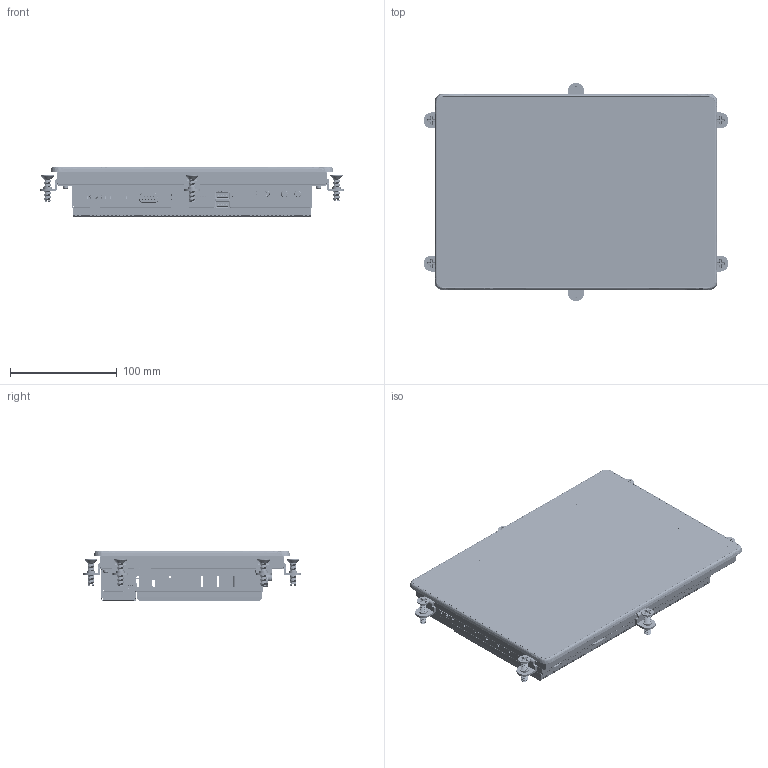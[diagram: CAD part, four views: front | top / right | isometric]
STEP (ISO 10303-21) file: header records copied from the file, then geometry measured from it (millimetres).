
FILE_DESCRIPTION((''),'2;1');
FILE_NAME('NPL4C-101','2026-06-02T10:50:19',('gijyu181'),(''),'CREO PARAMETRIC BY PTC INC, 2018050','CREO PARAMETRIC BY PTC INC, 2018050','');
FILE_SCHEMA(('CONFIG_CONTROL_DESIGN','SHAPE_APPEARANCE_LAYERS_GROUPS'));
Products named in the file (1): NPL4C-101
Bounding box: 285.6 x 204.6 x 46.4 mm (x, y, z)
Volume: 658449.5 mm3; surface area: 612884.1 mm2
Topology: 70 solids, 112 shells, 23442 faces, 68712 edges, 45268 vertices
Faces by surface type: plane 16072, cylinder 5126, extrusion 1201, cone 451, bspline 313, torus 174, sphere 89, revolution 16
Entity records: 935714 total; most frequent: CARTESIAN_POINT 204701, ORIENTED_EDGE 137092, DIRECTION 120259, EDGE_CURVE 68640, VECTOR 54511, LINE 53310, VERTEX_POINT 45266, AXIS2_PLACEMENT_3D 32866
